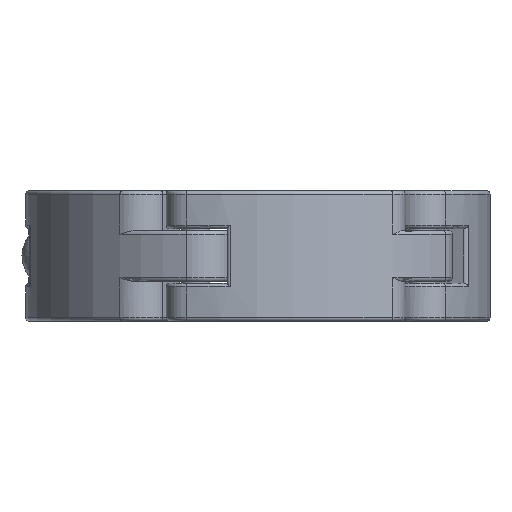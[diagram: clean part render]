
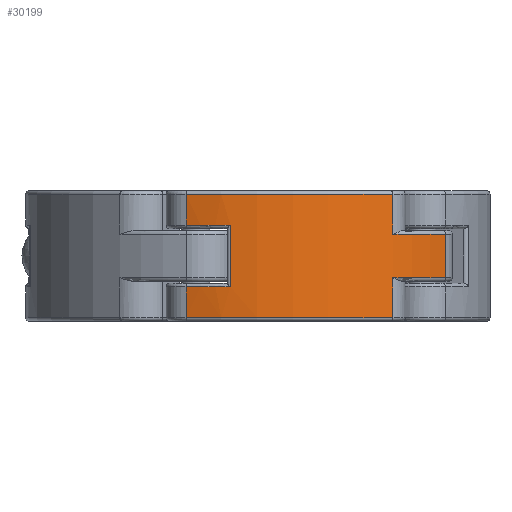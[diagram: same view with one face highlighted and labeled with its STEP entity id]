
A CAD part, left-side view. The second image highlights one B-rep face of the part: STEP entity #30199.
In plain terms, the highlighted cylindrical face has radius 32 mm (diameter 64 mm), a partial arc.
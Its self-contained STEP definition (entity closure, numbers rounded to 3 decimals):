
#29823=CARTESIAN_POINT('',(-18.809,-25.889,3.));
#29824=VERTEX_POINT('',#29823);
#29843=CARTESIAN_POINT('',(-26.028,-18.616,3.));
#29844=VERTEX_POINT('',#29843);
#29880=CARTESIAN_POINT('',(0.0,0.0,3.));
#29881=DIRECTION('',(0.0,0.0,-1.));
#29882=DIRECTION('',(-0.951,0.309,0.0));
#29883=AXIS2_PLACEMENT_3D('',#29880,#29881,#29882);
#29884=CIRCLE('',#29883,32.);
#29885=EDGE_CURVE('',#29844,#29824,#29884,.F.);
#30088=CARTESIAN_POINT('',(-18.809,-25.889,-3.));
#30089=VERTEX_POINT('',#30088);
#30090=CARTESIAN_POINT('',(-18.809,-25.889,-3.));
#30091=DIRECTION('',(0.0,0.0,1.0));
#30092=VECTOR('',#30091,6.);
#30093=LINE('',#30090,#30092);
#30094=EDGE_CURVE('',#29824,#30089,#30093,.F.);
#30107=CARTESIAN_POINT('',(0.0,0.0,0.0));
#30108=DIRECTION('',(0.0,0.0,-1.0));
#30109=DIRECTION('',(-0.951,0.309,0.0));
#30110=AXIS2_PLACEMENT_3D('',#30107,#30108,#30109);
#30111=CYLINDRICAL_SURFACE('',#30110,32.);
#30112=ORIENTED_EDGE('',*,*,#29885,.F.);
#30113=CARTESIAN_POINT('',(-26.028,-18.616,8.5));
#30114=VERTEX_POINT('',#30113);
#30115=CARTESIAN_POINT('',(-26.028,-18.616,8.5));
#30116=DIRECTION('',(0.0,0.0,-1.0));
#30117=VECTOR('',#30116,5.5);
#30118=LINE('',#30115,#30117);
#30119=EDGE_CURVE('',#29844,#30114,#30118,.F.);
#30120=ORIENTED_EDGE('',*,*,#30119,.T.);
#30121=CARTESIAN_POINT('',(-30.434,9.889,8.5));
#30122=VERTEX_POINT('',#30121);
#30123=CARTESIAN_POINT('',(0.0,0.0,8.5));
#30124=DIRECTION('',(0.0,0.0,-1.));
#30125=DIRECTION('',(-0.951,0.309,0.0));
#30126=AXIS2_PLACEMENT_3D('',#30123,#30124,#30125);
#30127=CIRCLE('',#30126,32.);
#30128=EDGE_CURVE('',#30122,#30114,#30127,.F.);
#30129=ORIENTED_EDGE('',*,*,#30128,.F.);
#30130=CARTESIAN_POINT('',(-30.434,9.889,4.25));
#30131=VERTEX_POINT('',#30130);
#30132=CARTESIAN_POINT('',(-30.434,9.889,8.5));
#30133=DIRECTION('',(0.0,0.0,-1.0));
#30134=VECTOR('',#30133,4.25);
#30135=LINE('',#30132,#30134);
#30136=EDGE_CURVE('',#30131,#30122,#30135,.F.);
#30137=ORIENTED_EDGE('',*,*,#30136,.F.);
#30138=CARTESIAN_POINT('',(-31.775,3.791,4.25));
#30139=VERTEX_POINT('',#30138);
#30140=CARTESIAN_POINT('',(0.0,0.0,4.25));
#30141=DIRECTION('',(0.0,0.0,-1.));
#30142=DIRECTION('',(-0.951,0.309,0.0));
#30143=AXIS2_PLACEMENT_3D('',#30140,#30141,#30142);
#30144=CIRCLE('',#30143,32.);
#30145=EDGE_CURVE('',#30139,#30131,#30144,.T.);
#30146=ORIENTED_EDGE('',*,*,#30145,.F.);
#30147=CARTESIAN_POINT('',(-31.775,3.791,-4.25));
#30148=VERTEX_POINT('',#30147);
#30149=CARTESIAN_POINT('',(-31.775,3.791,4.25));
#30150=DIRECTION('',(0.0,0.0,-1.0));
#30151=VECTOR('',#30150,8.5);
#30152=LINE('',#30149,#30151);
#30153=EDGE_CURVE('',#30148,#30139,#30152,.F.);
#30154=ORIENTED_EDGE('',*,*,#30153,.F.);
#30155=CARTESIAN_POINT('',(-30.434,9.889,-4.25));
#30156=VERTEX_POINT('',#30155);
#30157=CARTESIAN_POINT('',(0.0,0.0,-4.25));
#30158=DIRECTION('',(0.0,0.0,-1.));
#30159=DIRECTION('',(-0.951,0.309,0.0));
#30160=AXIS2_PLACEMENT_3D('',#30157,#30158,#30159);
#30161=CIRCLE('',#30160,32.);
#30162=EDGE_CURVE('',#30156,#30148,#30161,.F.);
#30163=ORIENTED_EDGE('',*,*,#30162,.F.);
#30164=CARTESIAN_POINT('',(-30.434,9.889,-8.5));
#30165=VERTEX_POINT('',#30164);
#30166=CARTESIAN_POINT('',(-30.434,9.889,-4.25));
#30167=DIRECTION('',(0.0,0.0,-1.0));
#30168=VECTOR('',#30167,4.25);
#30169=LINE('',#30166,#30168);
#30170=EDGE_CURVE('',#30165,#30156,#30169,.F.);
#30171=ORIENTED_EDGE('',*,*,#30170,.F.);
#30172=CARTESIAN_POINT('',(-26.028,-18.616,-8.5));
#30173=VERTEX_POINT('',#30172);
#30174=CARTESIAN_POINT('',(0.0,0.0,-8.5));
#30175=DIRECTION('',(0.0,0.0,-1.));
#30176=DIRECTION('',(-0.951,0.309,0.0));
#30177=AXIS2_PLACEMENT_3D('',#30174,#30175,#30176);
#30178=CIRCLE('',#30177,32.);
#30179=EDGE_CURVE('',#30173,#30165,#30178,.T.);
#30180=ORIENTED_EDGE('',*,*,#30179,.F.);
#30181=CARTESIAN_POINT('',(-26.028,-18.616,-3.));
#30182=VERTEX_POINT('',#30181);
#30183=CARTESIAN_POINT('',(-26.028,-18.616,-3.));
#30184=DIRECTION('',(0.0,0.0,-1.0));
#30185=VECTOR('',#30184,5.5);
#30186=LINE('',#30183,#30185);
#30187=EDGE_CURVE('',#30182,#30173,#30186,.T.);
#30188=ORIENTED_EDGE('',*,*,#30187,.F.);
#30189=CARTESIAN_POINT('',(0.0,0.0,-3.));
#30190=DIRECTION('',(0.0,0.0,-1.));
#30191=DIRECTION('',(-0.951,0.309,0.0));
#30192=AXIS2_PLACEMENT_3D('',#30189,#30190,#30191);
#30193=CIRCLE('',#30192,32.);
#30194=EDGE_CURVE('',#30089,#30182,#30193,.T.);
#30195=ORIENTED_EDGE('',*,*,#30194,.F.);
#30196=ORIENTED_EDGE('',*,*,#30094,.F.);
#30197=EDGE_LOOP('',(#30112,#30120,#30129,#30137,#30146,#30154,#30163,#30171,#30180,#30188,#30195,#30196));
#30198=FACE_OUTER_BOUND('',#30197,.T.);
#30199=ADVANCED_FACE('',(#30198),#30111,.T.);
